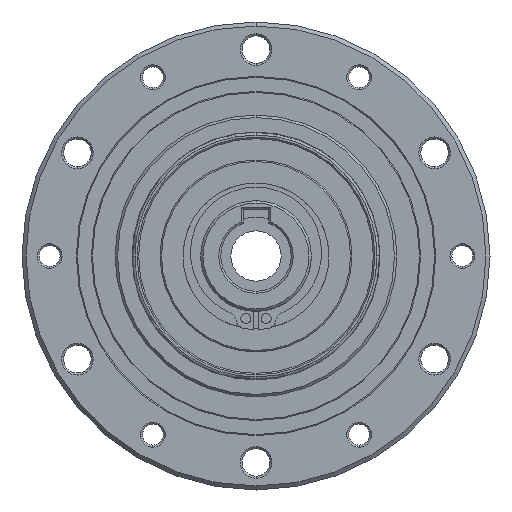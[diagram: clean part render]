
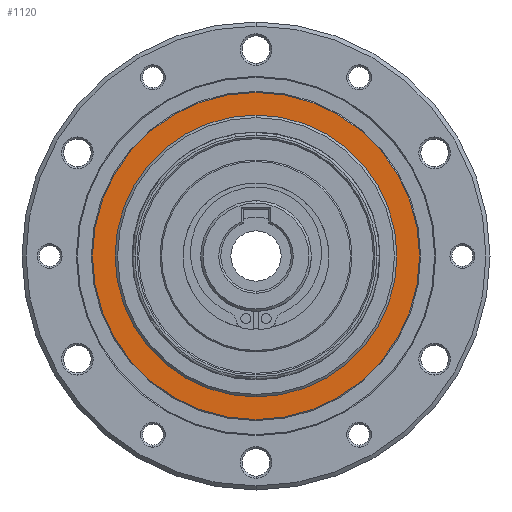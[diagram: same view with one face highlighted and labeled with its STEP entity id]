
A CAD part, left-side view. The second image highlights one B-rep face of the part: STEP entity #1120.
In plain terms, the highlighted planar face has unit normal (-1, 0, 0).
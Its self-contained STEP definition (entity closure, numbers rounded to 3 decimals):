
#1120=ADVANCED_FACE('NONE',(#2566,#2567),#2568,.T.);
#2566=FACE_OUTER_BOUND('',#4366,.T.);
#2567=FACE_BOUND('',#4367,.T.);
#2568=PLANE('',#4368);
#4366=EDGE_LOOP('',(#7632,#7633));
#4367=EDGE_LOOP('',(#7634,#7635));
#4368=AXIS2_PLACEMENT_3D('',#7636,#7637,#7638);
#7632=ORIENTED_EDGE('',*,*,#10990,.F.);
#7633=ORIENTED_EDGE('',*,*,#11626,.F.);
#7634=ORIENTED_EDGE('',*,*,#11630,.T.);
#7635=ORIENTED_EDGE('',*,*,#11002,.T.);
#7636=CARTESIAN_POINT('',(-0.037,0.,0.003));
#7637=DIRECTION('',(-1.0,0.,0.));
#7638=DIRECTION('',(0.,0.0,1.0));
#10990=EDGE_CURVE('NONE',#13313,#13314,#13315,.T.);
#11002=EDGE_CURVE('NONE',#13331,#13332,#13333,.T.);
#11626=EDGE_CURVE('NONE',#13314,#13313,#14286,.T.);
#11630=EDGE_CURVE('NONE',#13332,#13331,#14290,.T.);
#13313=VERTEX_POINT('NONE',#17511);
#13314=VERTEX_POINT('NONE',#17512);
#13315=CIRCLE('',#17513,32.5);
#13331=VERTEX_POINT('NONE',#17535);
#13332=VERTEX_POINT('NONE',#17536);
#13333=CIRCLE('',#17537,28.0);
#14286=CIRCLE('',#18682,32.5);
#14290=CIRCLE('',#18686,28.0);
#17511=CARTESIAN_POINT('',(-0.037,0.,32.503));
#17512=CARTESIAN_POINT('',(-0.037,0.,-32.497));
#17513=AXIS2_PLACEMENT_3D('',#21341,#21342,#21343);
#17535=CARTESIAN_POINT('',(-0.037,0.,28.003));
#17536=CARTESIAN_POINT('',(-0.037,0.,-27.997));
#17537=AXIS2_PLACEMENT_3D('',#21356,#21357,#21358);
#18682=AXIS2_PLACEMENT_3D('',#22418,#22419,#22420);
#18686=AXIS2_PLACEMENT_3D('',#22424,#22425,#22426);
#21341=CARTESIAN_POINT('',(-0.037,0.,0.003));
#21342=DIRECTION('',(1.0,0.,0.));
#21343=DIRECTION('',(0.,0.0,1.0));
#21356=CARTESIAN_POINT('',(-0.037,0.,0.003));
#21357=DIRECTION('',(1.0,0.,0.));
#21358=DIRECTION('',(0.,0.0,-1.0));
#22418=CARTESIAN_POINT('',(-0.037,0.,0.003));
#22419=DIRECTION('',(1.0,0.,0.));
#22420=DIRECTION('',(0.,0.0,1.0));
#22424=CARTESIAN_POINT('',(-0.037,0.,0.003));
#22425=DIRECTION('',(1.0,0.,0.));
#22426=DIRECTION('',(0.,0.0,-1.0));
